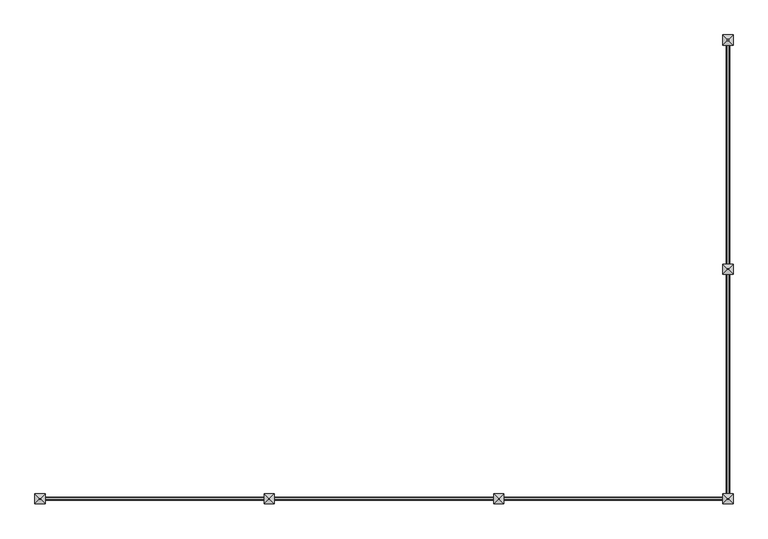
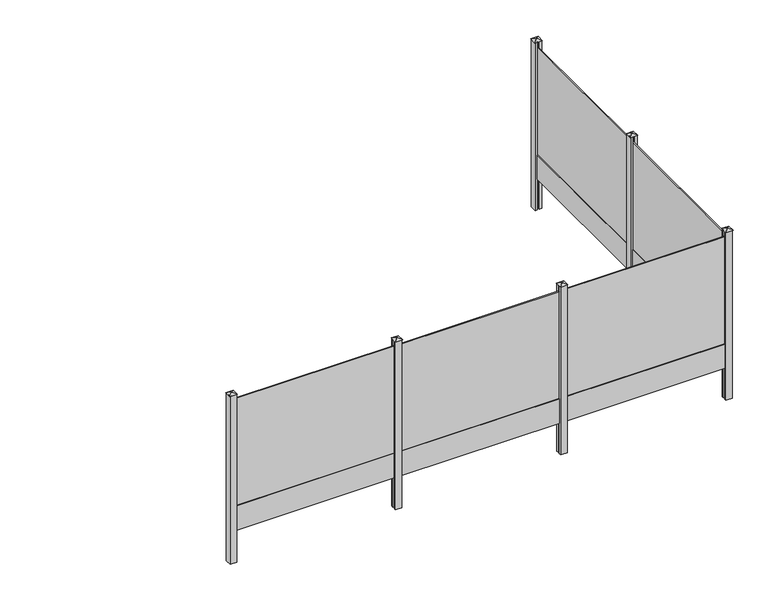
"""IFC4 building model written with IfcOpenShell, lengths in millimetres: railing geometry, Mehat - Railing - Plaque de Soubassement - Ardoise pour clôture rigide - 251x40x3.5 cm."""

from ifc_helpers import new_model, si_unit, frame, origin, origin_with_axes, place, context, project, spatial, polyline, outline, extrude, faceted_brep, source, transform, mapped, element, save


def railing_ebe56180(model_context):
    return source(origin(), model_context, "Body", "SolidModel", [
        extrude(outline(polyline([(-1163.7483484, -20957.4943936), (-1180.7483484, -20957.4943936), (-1180.7483484, -18447.4943936), (-1163.7483484, -18447.4943936), (-1163.7483484, -20957.4943936)])), frame((0.0, 0.0, 400.0), z_axis=(0.0, 0.0, 1.0), x_axis=(1.0, 0.0, 0.0)), (0.0, 0.0, 1.0), 1750.0),
        extrude(outline(polyline([(-1154.7483484, -20957.4943936), (-1189.7483484, -20957.4943936), (-1189.7483484, -18447.4943936), (-1154.7483484, -18447.4943936), (-1154.7483484, -20957.4943936)])), origin_with_axes(), (0.0, 0.0, 1.0), 400.0),
        extrude(outline(polyline([(-1122.2483484, -21032.4943936), (-1154.7483484, -21032.4943936), (-1154.7483484, -21007.4943936), (-1189.7483484, -21007.4943936), (-1189.7483484, -21032.4943936), (-1222.2483484, -21032.4943936), (-1222.2483484, -20932.4943936), (-1189.7483484, -20932.4943936), (-1189.7483484, -20957.4943936), (-1154.7483484, -20957.4943936), (-1154.7483484, -20932.4943936), (-1122.2483484, -20932.4943936), (-1122.2483484, -21032.4943936)])), frame((0.0, 0.0, -500.0), z_axis=(0.0, 0.0, 1.0), x_axis=(1.0, 0.0, 0.0)), (0.0, 0.0, 1.0), 2750.0),
        faceted_brep([(-1178.6528945, -20976.1443936, 2275.4), (-1178.6528945, -20988.8443936, 2275.4), (-1165.9528945, -20988.8443936, 2275.4), (-1165.9528945, -20976.1443936, 2275.4), (-1228.5983484, -20926.1443936, 2250.0), (-1115.8983484, -20926.1443936, 2250.0), (-1115.8983484, -21038.8443936, 2250.0), (-1228.5983484, -21038.8443936, 2250.0)], [[[0, 1, 2, 3]], [[4, 5, 6, 7]], [[4, 0, 3, 5]], [[5, 3, 2, 6]], [[6, 2, 1, 7]], [[7, 1, 0, 4]]]),
        extrude(outline(polyline([(-1163.7483484, -23517.4943936), (-1180.7483484, -23517.4943936), (-1180.7483484, -21007.4943936), (-1163.7483484, -21007.4943936), (-1163.7483484, -23517.4943936)])), frame((0.0, 0.0, 400.0), z_axis=(0.0, 0.0, 1.0), x_axis=(1.0, 0.0, 0.0)), (0.0, 0.0, 1.0), 1750.0),
        extrude(outline(polyline([(-1154.7483484, -23517.4943936), (-1189.7483484, -23517.4943936), (-1189.7483484, -21007.4943936), (-1154.7483484, -21007.4943936), (-1154.7483484, -23517.4943936)])), origin_with_axes(), (0.0, 0.0, 1.0), 400.0),
        extrude(outline(polyline([(-3707.2483484, -23550.9943936), (-3707.2483484, -23533.9943936), (-1197.2483484, -23533.9943936), (-1197.2483484, -23550.9943936), (-3707.2483484, -23550.9943936)])), frame((0.0, 0.0, 400.0), z_axis=(0.0, 0.0, 1.0), x_axis=(1.0, 0.0, 0.0)), (0.0, 0.0, 1.0), 1750.0),
        extrude(outline(polyline([(-3707.2483484, -23559.9943936), (-3707.2483484, -23524.9943936), (-1197.2483484, -23524.9943936), (-1197.2483484, -23559.9943936), (-3707.2483484, -23559.9943936)])), origin_with_axes(), (0.0, 0.0, 1.0), 400.0),
        extrude(outline(polyline([(-3782.2483484, -23592.4943936), (-3782.2483484, -23559.9943936), (-3757.2483484, -23559.9943936), (-3757.2483484, -23524.9943936), (-3782.2483484, -23524.9943936), (-3782.2483484, -23492.4943936), (-3682.2483484, -23492.4943936), (-3682.2483484, -23524.9943936), (-3707.2483484, -23524.9943936), (-3707.2483484, -23559.9943936), (-3682.2483484, -23559.9943936), (-3682.2483484, -23592.4943936), (-3782.2483484, -23592.4943936)])), frame((0.0, 0.0, -500.0), z_axis=(0.0, 0.0, 1.0), x_axis=(1.0, 0.0, 0.0)), (0.0, 0.0, 1.0), 2750.0),
        faceted_brep([(-3725.8983484, -23536.0898475, 2275.4), (-3738.5983484, -23536.0898475, 2275.4), (-3738.5983484, -23548.7898475, 2275.4), (-3725.8983484, -23548.7898475, 2275.4), (-3675.8983484, -23486.1443936, 2250.0), (-3675.8983484, -23598.8443936, 2250.0), (-3788.5983484, -23598.8443936, 2250.0), (-3788.5983484, -23486.1443936, 2250.0)], [[[0, 1, 2, 3]], [[4, 5, 6, 7]], [[4, 0, 3, 5]], [[5, 3, 2, 6]], [[6, 2, 1, 7]], [[7, 1, 0, 4]]]),
        extrude(outline(polyline([(-6267.2483484, -23550.9943936), (-6267.2483484, -23533.9943936), (-3757.2483484, -23533.9943936), (-3757.2483484, -23550.9943936), (-6267.2483484, -23550.9943936)])), frame((0.0, 0.0, 400.0), z_axis=(0.0, 0.0, 1.0), x_axis=(1.0, 0.0, 0.0)), (0.0, 0.0, 1.0), 1750.0),
        extrude(outline(polyline([(-6267.2483484, -23559.9943936), (-6267.2483484, -23524.9943936), (-3757.2483484, -23524.9943936), (-3757.2483484, -23559.9943936), (-6267.2483484, -23559.9943936)])), origin_with_axes(), (0.0, 0.0, 1.0), 400.0),
        extrude(outline(polyline([(-6342.2483484, -23592.4943936), (-6342.2483484, -23559.9943936), (-6317.2483484, -23559.9943936), (-6317.2483484, -23524.9943936), (-6342.2483484, -23524.9943936), (-6342.2483484, -23492.4943936), (-6242.2483484, -23492.4943936), (-6242.2483484, -23524.9943936), (-6267.2483484, -23524.9943936), (-6267.2483484, -23559.9943936), (-6242.2483484, -23559.9943936), (-6242.2483484, -23592.4943936), (-6342.2483484, -23592.4943936)])), frame((0.0, 0.0, -500.0), z_axis=(0.0, 0.0, 1.0), x_axis=(1.0, 0.0, 0.0)), (0.0, 0.0, 1.0), 2750.0),
        faceted_brep([(-6285.8983484, -23536.0898475, 2275.4), (-6298.5983484, -23536.0898475, 2275.4), (-6298.5983484, -23548.7898475, 2275.4), (-6285.8983484, -23548.7898475, 2275.4), (-6235.8983484, -23486.1443936, 2250.0), (-6235.8983484, -23598.8443936, 2250.0), (-6348.5983484, -23598.8443936, 2250.0), (-6348.5983484, -23486.1443936, 2250.0)], [[[0, 1, 2, 3]], [[4, 5, 6, 7]], [[4, 0, 3, 5]], [[5, 3, 2, 6]], [[6, 2, 1, 7]], [[7, 1, 0, 4]]]),
        extrude(outline(polyline([(-8827.2483484, -23550.9943936), (-8827.2483484, -23533.9943936), (-6317.2483484, -23533.9943936), (-6317.2483484, -23550.9943936), (-8827.2483484, -23550.9943936)])), frame((0.0, 0.0, 400.0), z_axis=(0.0, 0.0, 1.0), x_axis=(1.0, 0.0, 0.0)), (0.0, 0.0, 1.0), 1750.0),
        extrude(outline(polyline([(-8827.2483484, -23559.9943936), (-8827.2483484, -23524.9943936), (-6317.2483484, -23524.9943936), (-6317.2483484, -23559.9943936), (-8827.2483484, -23559.9943936)])), origin_with_axes(), (0.0, 0.0, 1.0), 400.0),
        extrude(outline(polyline([(-1222.2483484, -23592.4943936), (-1222.2483484, -23559.9943936), (-1197.2483484, -23559.9943936), (-1197.2483484, -23524.9943936), (-1222.2483484, -23524.9943936), (-1222.2483484, -23492.4943936), (-1189.7483484, -23492.4943936), (-1189.7483484, -23517.4943936), (-1154.7483484, -23517.4943936), (-1154.7483484, -23492.4943936), (-1122.2483484, -23492.4943936), (-1122.2483484, -23592.4943936), (-1222.2483484, -23592.4943936)])), frame((0.0, 0.0, -500.0), z_axis=(0.0, 0.0, 1.0), x_axis=(1.0, 0.0, 0.0)), (0.0, 0.0, 1.0), 2750.0),
        faceted_brep([(-1165.8983484, -23536.0898475, 2275.4), (-1178.5983484, -23536.0898475, 2275.4), (-1178.5983484, -23548.7898475, 2275.4), (-1165.8983484, -23548.7898475, 2275.4), (-1115.8983484, -23486.1443936, 2250.0), (-1115.8983484, -23598.8443936, 2250.0), (-1228.5983484, -23598.8443936, 2250.0), (-1228.5983484, -23486.1443936, 2250.0)], [[[0, 1, 2, 3]], [[4, 5, 6, 7]], [[4, 0, 3, 5]], [[5, 3, 2, 6]], [[6, 2, 1, 7]], [[7, 1, 0, 4]]]),
        extrude(outline(polyline([(-1122.2483484, -18472.4943936), (-1154.7483484, -18472.4943936), (-1154.7483484, -18447.4943936), (-1189.7483484, -18447.4943936), (-1189.7483484, -18472.4943936), (-1222.2483484, -18472.4943936), (-1222.2483484, -18372.4943936), (-1122.2483484, -18372.4943936), (-1122.2483484, -18472.4943936)])), frame((0.0, 0.0, -500.0), z_axis=(0.0, 0.0, 1.0), x_axis=(1.0, 0.0, 0.0)), (0.0, 0.0, 1.0), 2750.0),
        faceted_brep([(-1178.6528945, -18416.1443936, 2275.4), (-1178.6528945, -18428.8443936, 2275.4), (-1165.9528945, -18428.8443936, 2275.4), (-1165.9528945, -18416.1443936, 2275.4), (-1228.5983484, -18366.1443936, 2250.0), (-1115.8983484, -18366.1443936, 2250.0), (-1115.8983484, -18478.8443936, 2250.0), (-1228.5983484, -18478.8443936, 2250.0)], [[[0, 1, 2, 3]], [[4, 5, 6, 7]], [[4, 0, 3, 5]], [[5, 3, 2, 6]], [[6, 2, 1, 7]], [[7, 1, 0, 4]]]),
        extrude(outline(polyline([(-8902.2483484, -23592.4943936), (-8902.2483484, -23492.4943936), (-8802.2483484, -23492.4943936), (-8802.2483484, -23524.9943936), (-8827.2483484, -23524.9943936), (-8827.2483484, -23559.9943936), (-8802.2483484, -23559.9943936), (-8802.2483484, -23592.4943936), (-8902.2483484, -23592.4943936)])), frame((0.0, 0.0, -500.0), z_axis=(0.0, 0.0, 1.0), x_axis=(1.0, 0.0, 0.0)), (0.0, 0.0, 1.0), 2750.0),
        faceted_brep([(-8845.8983484, -23536.0898475, 2275.4), (-8858.5983484, -23536.0898475, 2275.4), (-8858.5983484, -23548.7898475, 2275.4), (-8845.8983484, -23548.7898475, 2275.4), (-8795.8983484, -23486.1443936, 2250.0), (-8795.8983484, -23598.8443936, 2250.0), (-8908.5983484, -23598.8443936, 2250.0), (-8908.5983484, -23486.1443936, 2250.0)], [[[0, 1, 2, 3]], [[4, 5, 6, 7]], [[4, 0, 3, 5]], [[5, 3, 2, 6]], [[6, 2, 1, 7]], [[7, 1, 0, 4]]]),
    ])


if __name__ == "__main__":
    model = new_model("IFC4")
    model_context = context("Model", 3, world=origin())
    ifc_project = project(units=[si_unit("LENGTHUNIT", "METRE", prefix="MILLI")], contexts=[model_context])
    site = spatial("IfcSite", under=ifc_project)
    building = spatial("IfcBuilding", under=site)
    placement = place(None, origin())
    railing_shape = railing_ebe56180(model_context)
    element("IfcRailing", 1, ObjectType="Mehat - Railing - Plaque de Soubassement - Ardoise pour clôture rigide - 251x40x3.5 cm", at=placement, inside=building, context=model_context, shape_type="MappedRepresentation", body=[
        mapped(railing_shape, transform((0.0, 0.0, 0.0), x_axis=(1.0, 0.0, 0.0), y_axis=(0.0, 1.0, 0.0), z_axis=(0.0, 0.0, 1.0))),
    ])
    save(model, "model.ifc")
